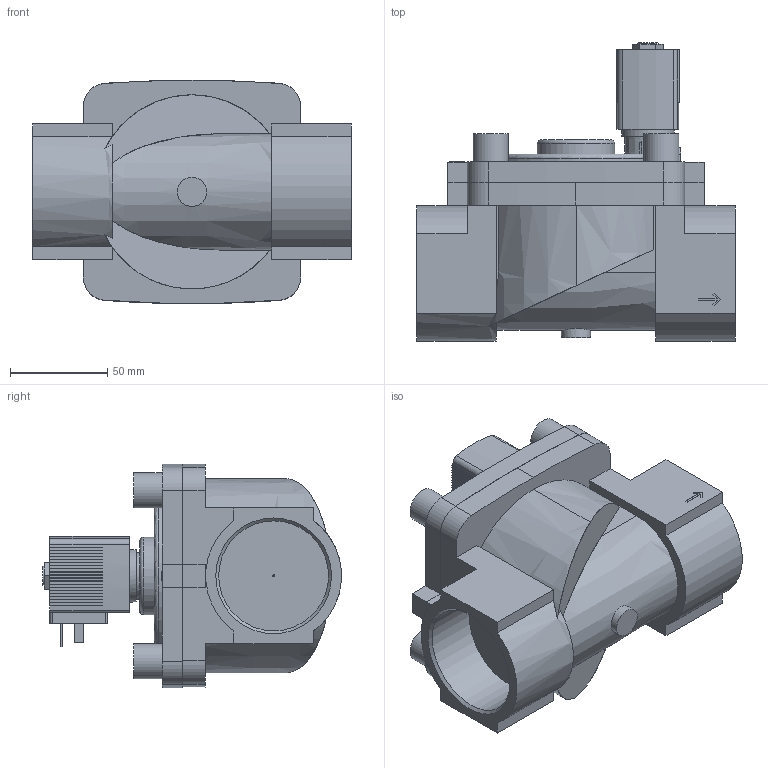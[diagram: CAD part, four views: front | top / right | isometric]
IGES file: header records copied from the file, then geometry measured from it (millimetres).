
Start section: Data from Parasolid IGES Translator 26.0.171, Copyright(c) 2006 Siemens PLM Software. All Rights Reserved.
Global section: file name: 6281-345831-2_2-Way_Solenoid_Valve__Servo-assisted__General_Purpose.igs; native system: By Siemens PLM Incorporated; preprocessor: XPlus GENERIC/IGES 26.0.171; author: Noname; organization: Noname; date: 20240906.104611; units: millimetre
Bounding box: 164 x 153.87 x 115.15 mm (x, y, z)
Surface area: 125944.7 mm2 (no closed solid volume)
Topology: 0 solids, 0 shells, 467 faces, 2624 edges, 2600 vertices
Faces by surface type: extrusion 386, revolution 81
